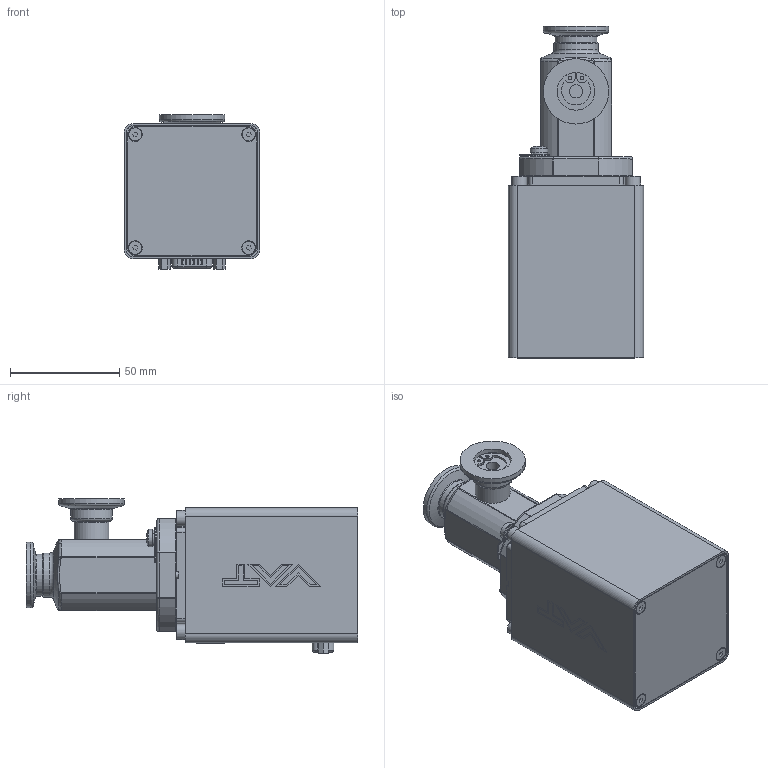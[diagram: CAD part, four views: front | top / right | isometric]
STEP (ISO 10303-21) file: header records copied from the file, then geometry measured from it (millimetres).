
FILE_DESCRIPTION(/* description */ (''),/* implementation_level */ '2;1');
FILE_NAME(/* name */ '1638486272_203.stp',/* time_stamp */ '2023-07-13T13:28:56+02:00',/* author */ (''),/* organization */ (''),/* preprocessor_version */ 'ST-DEVELOPER v19.3',/* originating_system */ 'SIEMENS PLM Software NX2212.3001',/* authorisation */ '');
FILE_SCHEMA (('AP203_CONFIGURATION_CONTROLLED_3D_DESIGN_OF_MECHANICAL_PARTS_AND_ASSEMBLIES_MIM_LF { 1 0 10303 403 2 1 2}'));
Products named in the file (29): 915874_36904ID; 917317; 918169; 918165; 921171; 739259; n-6134-406.1; n-6160-408.1; 435831; 372527.1; 921200; 927125; 1219394; 853082; 821317; 1125991; 599925; 707650; 584876; 224789.1; n-6203-417.1; 915900; 588338; 918162; 739263; 1198436_MODEL; 916236; 1219420_MODEL; 1222959
Assembly tree (38 placements, depth 4):
  1222959
    588338
    1219420_MODEL
      1219394
      927125
    915900
    916236
      1198436_MODEL
        915874_36904ID
      921200
      372527.1  x4
    n-6203-417.1
    224789.1  x4
    584876  x4
    739263
      435831
      n-6160-408.1
      n-6134-406.1
      739259
    707650
    599925
    1125991
    821317  x2
    918162
      921171
      918165
      918169
      917317
    853082
Bounding box: 62 x 152.2 x 70.8 mm (x, y, z)
Volume: 126849.4 mm3; surface area: 98021.2 mm2
Topology: 115 solids, 117 shells, 3808 faces, 9672 edges, 6219 vertices
Faces by surface type: plane 2080, cylinder 902, bspline 436, torus 179, sphere 106, cone 105
Full cylindrical faces by diameter (mm): 1.5 x1, 1.6 x2, 2 x1, 2.46 x4, 2.5 x8, 2.65 x1, 3 x14, 3.15 x1, 3.2 x2, 3.26 x4, 3.3 x9, 3.4 x12, 3.84 x1, 4 x9, 4.2 x4, 4.3 x2, 5 x2, 5.5 x4, 5.55 x1, 6 x5, 6.2 x2, 6.5 x4, 6.7 x1, 7 x5, 7.5 x1, 8 x2, 8.4 x2, 8.8 x1, 9.6 x1, 9.625 x1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
Entity records: 140854 total; most frequent: CARTESIAN_POINT 52475, ORIENTED_EDGE 18014, DIRECTION 16007, EDGE_CURVE 9007, VERTEX_POINT 5914, AXIS2_PLACEMENT_3D 5411, LINE 5185, VECTOR 5185
